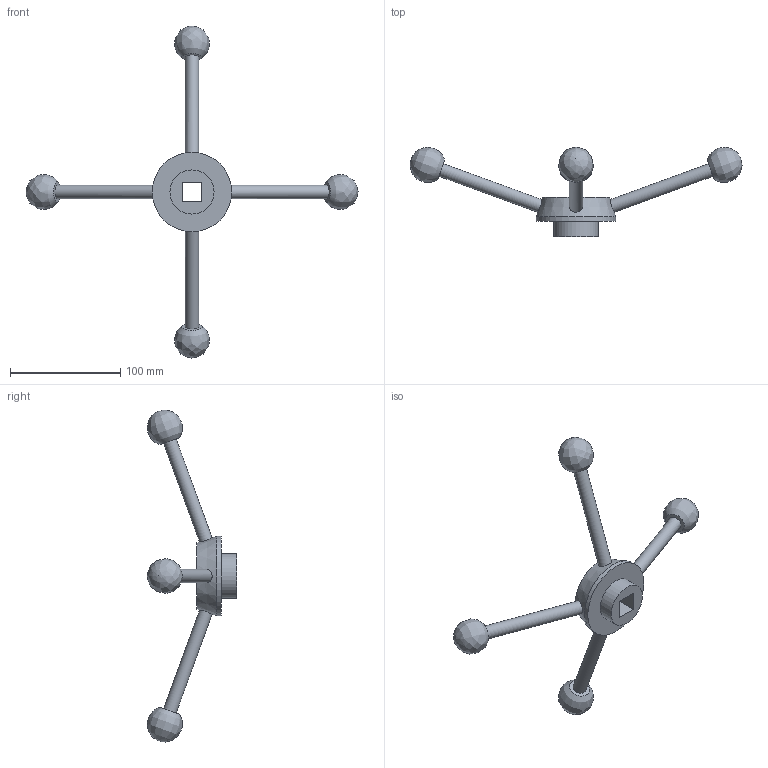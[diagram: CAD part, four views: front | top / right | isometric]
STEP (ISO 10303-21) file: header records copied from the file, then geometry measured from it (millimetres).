
FILE_DESCRIPTION( ( 'STEP AP203' ), '1' );
FILE_NAME( 'C:/Temp/Ganter_Step_05_03_2020/data/2_1/gn_213/gn_213_v/Turret lever GN 213-72-V18.stp', '2020-03-05T11:51:22', ( 'License CC BY-ND 4.0' ), ( 'CADENAS' ), ' ', 'PARTsolutions', ' ' );
FILE_SCHEMA( ( 'CONFIG_CONTROL_DESIGN' ) );
Length unit declared in the file: millimetre
Products named in the file (1): _Turret lever GN 213-72-V18
Bounding box: 300.57 x 81 x 300.57 mm (x, y, z)
Volume: 194361.9 mm3; surface area: 41711.1 mm2
Topology: 1 solids, 1 shells, 22 faces, 50 edges, 34 vertices
Faces by surface type: plane 11, cylinder 6, bspline 4, cone 1
Full cylindrical faces by diameter (mm): 12 x4, 40 x1, 72 x1
Entity records: 962 total; most frequent: CARTESIAN_POINT 521, DIRECTION 76, ORIENTED_EDGE 58, EDGE_LOOP 40, AXIS2_PLACEMENT_3D 32, VERTEX_POINT 29, EDGE_CURVE 29, FACE_OUTER_BOUND 28
